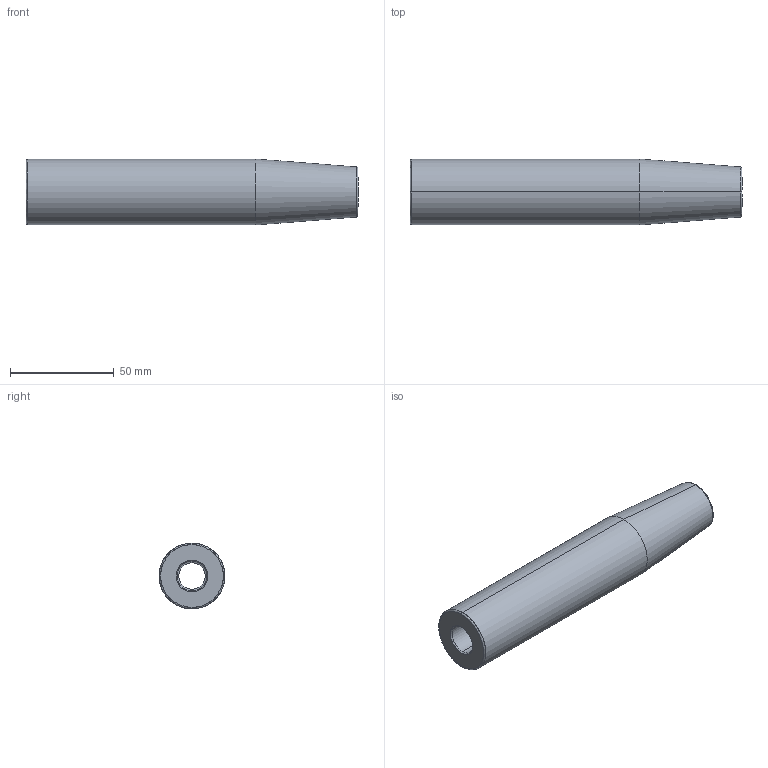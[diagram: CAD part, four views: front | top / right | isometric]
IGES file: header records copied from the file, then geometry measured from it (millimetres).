
Start section: SolidWorks IGES file using analytic representation for surfaces
Global section: file name: C:\ProgramData\Alignex\DDS\processing\files\1363639787.39673\igs\SSL4-2008.igs; native system: SolidWorks 2013; preprocessor: SolidWorks 2013; author: SYSTEM; date: 130318.160928; units: inch
Bounding box: 160 x 31.75 x 31.75 mm (x, y, z)
Surface area: 23255.8 mm2 (no closed solid volume)
Topology: 0 solids, 0 shells, 22 faces, 240 edges, 240 vertices
Faces by surface type: revolution 16, bspline 6
